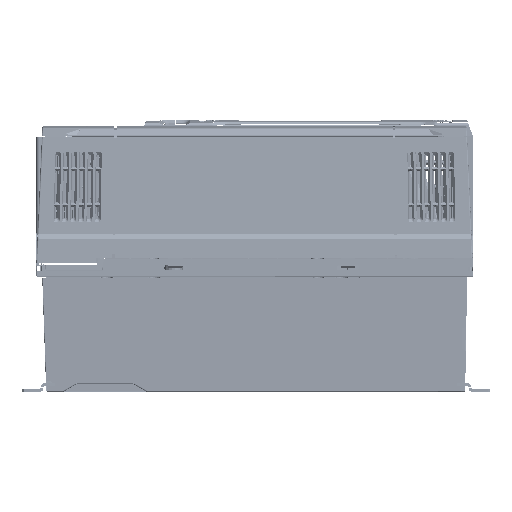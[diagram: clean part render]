
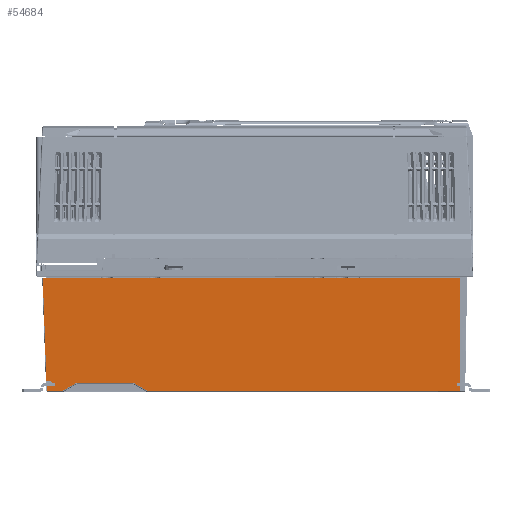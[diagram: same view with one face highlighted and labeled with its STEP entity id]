
A CAD part, left-side view. The second image highlights one B-rep face of the part: STEP entity #54684.
In plain terms, the highlighted planar face has unit normal (-1, 0, -0.026).
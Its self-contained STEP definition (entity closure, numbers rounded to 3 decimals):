
#12900=DIRECTION('',(0.,-1.,0.));
#12901=VECTOR('',#12900,348.629);
#12902=CARTESIAN_POINT('',(-165.17,176.879,
-2.787));
#12903=LINE('',#12902,#12901);
#12904=DIRECTION('',(-0.026,0.,1.));
#12905=VECTOR('',#12904,94.545);
#12906=CARTESIAN_POINT('',(-162.696,-171.75,-97.299));
#12907=LINE('',#12906,#12905);
#12908=DIRECTION('',(0.,1.,0.));
#12909=VECTOR('',#12908,261.482);
#12910=CARTESIAN_POINT('',(-162.696,-171.75,-97.299));
#12911=LINE('',#12910,#12909);
#12912=DIRECTION('',(-0.013,0.866,0.5));
#12913=VECTOR('',#12912,12.665);
#12914=CARTESIAN_POINT('',(-162.696,89.732,
-97.299));
#12915=LINE('',#12914,#12913);
#12916=CARTESIAN_POINT('',(-162.861,100.699,
-90.967));
#12917=CARTESIAN_POINT('',(-162.864,100.854,
-90.878));
#12918=CARTESIAN_POINT('',(-162.867,101.176,
-90.746));
#12919=CARTESIAN_POINT('',(-162.868,101.521,
-90.699));
#12920=CARTESIAN_POINT('',(-162.868,101.699,
-90.699));
#12922=DIRECTION('',(0.,1.,0.));
#12923=VECTOR('',#12922,46.601);
#12924=CARTESIAN_POINT('',(-162.868,101.699,
-90.699));
#12925=LINE('',#12924,#12923);
#12926=CARTESIAN_POINT('',(-162.868,148.301,
-90.699));
#12927=CARTESIAN_POINT('',(-162.868,148.479,
-90.699));
#12928=CARTESIAN_POINT('',(-162.867,148.824,
-90.746));
#12929=CARTESIAN_POINT('',(-162.864,149.146,
-90.878));
#12930=CARTESIAN_POINT('',(-162.861,149.301,
-90.967));
#12932=DIRECTION('',(0.013,0.866,-0.5));
#12933=VECTOR('',#12932,12.665);
#12934=CARTESIAN_POINT('',(-162.861,149.301,
-90.967));
#12935=LINE('',#12934,#12933);
#12936=DIRECTION('',(0.,1.,0.));
#12937=VECTOR('',#12936,13.311);
#12938=CARTESIAN_POINT('',(-162.696,160.268,
-97.299));
#12939=LINE('',#12938,#12937);
#12940=DIRECTION('',(-0.026,0.035,0.999));
#12941=VECTOR('',#12940,3.752);
#12942=CARTESIAN_POINT('',(-162.696,173.579,
-97.299));
#12943=LINE('',#12942,#12941);
#12944=DIRECTION('',(0.,-1.,0.017));
#12945=VECTOR('',#12944,3.228);
#12946=CARTESIAN_POINT('',(-162.794,173.71,
-93.551));
#12947=LINE('',#12946,#12945);
#12948=CARTESIAN_POINT('',(-162.795,170.483,
-93.494));
#12949=CARTESIAN_POINT('',(-162.795,170.44,
-93.494));
#12950=CARTESIAN_POINT('',(-162.795,170.351,
-93.487));
#12951=CARTESIAN_POINT('',(-162.796,170.207,
-93.455));
#12952=CARTESIAN_POINT('',(-162.798,170.057,
-93.396));
#12953=CARTESIAN_POINT('',(-162.8,169.903,
-93.305));
#12954=CARTESIAN_POINT('',(-162.804,169.752,
-93.17));
#12955=CARTESIAN_POINT('',(-162.808,169.617,
-92.985));
#12956=CARTESIAN_POINT('',(-162.815,169.523,
-92.752));
#12957=CARTESIAN_POINT('',(-162.819,169.5,
-92.584));
#12958=CARTESIAN_POINT('',(-162.821,169.5,-92.495));
#12960=DIRECTION('',(-0.026,0.,1.));
#12961=VECTOR('',#12960,2.018);
#12962=CARTESIAN_POINT('',(-162.821,169.5,-92.495));
#12963=LINE('',#12962,#12961);
#12964=CARTESIAN_POINT('',(-162.874,169.5,-90.477));
#12965=CARTESIAN_POINT('',(-162.875,169.5,
-90.434));
#12966=CARTESIAN_POINT('',(-162.878,169.506,
-90.344));
#12967=CARTESIAN_POINT('',(-162.881,169.535,
-90.199));
#12968=CARTESIAN_POINT('',(-162.885,169.592,
-90.047));
#12969=CARTESIAN_POINT('',(-162.89,169.683,
-89.89));
#12970=CARTESIAN_POINT('',(-162.894,169.817,
-89.736));
#12971=CARTESIAN_POINT('',(-162.897,170.001,
-89.599));
#12972=CARTESIAN_POINT('',(-162.9,170.23,
-89.504));
#12973=CARTESIAN_POINT('',(-162.9,170.395,
-89.479));
#12974=CARTESIAN_POINT('',(-162.9,170.483,
-89.477));
#12976=DIRECTION('',(0.,1.,0.017));
#12977=VECTOR('',#12976,3.372);
#12978=CARTESIAN_POINT('',(-162.9,170.483,
-89.477));
#12979=LINE('',#12978,#12977);
#12980=DIRECTION('',(-0.026,0.035,0.999));
#12981=VECTOR('',#12980,86.714);
#12982=CARTESIAN_POINT('',(-162.902,173.854,
-89.419));
#12983=LINE('',#12982,#12981);
#46662=CARTESIAN_POINT('',(-162.861,149.301,
-90.967));
#46663=CARTESIAN_POINT('',(-162.696,160.268,
-97.299));
#46664=VERTEX_POINT('',#46662);
#46665=VERTEX_POINT('',#46663);
#46666=VERTEX_POINT('',#12926);
#46671=CARTESIAN_POINT('',(-162.868,101.699,
-90.699));
#46672=VERTEX_POINT('',#46671);
#46673=VERTEX_POINT('',#12916);
#46678=CARTESIAN_POINT('',(-162.696,89.732,
-97.299));
#46679=VERTEX_POINT('',#46678);
#46684=CARTESIAN_POINT('',(-162.696,-171.75,-97.299));
#46685=VERTEX_POINT('',#46684);
#46704=CARTESIAN_POINT('',(-162.9,170.483,
-89.477));
#46705=CARTESIAN_POINT('',(-162.902,173.854,
-89.419));
#46706=VERTEX_POINT('',#46704);
#46707=VERTEX_POINT('',#46705);
#46708=VERTEX_POINT('',#12964);
#46709=CARTESIAN_POINT('',(-162.821,169.5,-92.495));
#46710=VERTEX_POINT('',#46709);
#46711=VERTEX_POINT('',#12948);
#46712=CARTESIAN_POINT('',(-162.794,173.71,
-93.551));
#46713=VERTEX_POINT('',#46712);
#46718=CARTESIAN_POINT('',(-162.696,173.579,
-97.299));
#46719=VERTEX_POINT('',#46718);
#46748=CARTESIAN_POINT('',(-165.17,-171.75,-2.787));
#46750=VERTEX_POINT('',#46748);
#46756=CARTESIAN_POINT('',(-165.17,176.879,
-2.787));
#46757=VERTEX_POINT('',#46756);
#54645=CARTESIAN_POINT('',(-162.67,-188.8,-98.273));
#54646=DIRECTION('',(-1.,0.,-0.026));
#54647=DIRECTION('',(0.,1.,0.));
#54648=AXIS2_PLACEMENT_3D('',#54645,#54646,#54647);
#54649=PLANE('',#54648);
#54651=ORIENTED_EDGE('',*,*,#54650,.T.);
#54653=ORIENTED_EDGE('',*,*,#54652,.F.);
#54655=ORIENTED_EDGE('',*,*,#54654,.T.);
#54657=ORIENTED_EDGE('',*,*,#54656,.T.);
#54659=ORIENTED_EDGE('',*,*,#54658,.T.);
#54661=ORIENTED_EDGE('',*,*,#54660,.T.);
#54663=ORIENTED_EDGE('',*,*,#54662,.T.);
#54665=ORIENTED_EDGE('',*,*,#54664,.T.);
#54667=ORIENTED_EDGE('',*,*,#54666,.T.);
#54669=ORIENTED_EDGE('',*,*,#54668,.T.);
#54671=ORIENTED_EDGE('',*,*,#54670,.T.);
#54673=ORIENTED_EDGE('',*,*,#54672,.T.);
#54675=ORIENTED_EDGE('',*,*,#54674,.T.);
#54677=ORIENTED_EDGE('',*,*,#54676,.T.);
#54679=ORIENTED_EDGE('',*,*,#54678,.T.);
#54681=ORIENTED_EDGE('',*,*,#54680,.T.);
#54682=EDGE_LOOP('',(#54651,#54653,#54655,#54657,#54659,#54661,#54663,#54665,
#54667,#54669,#54671,#54673,#54675,#54677,#54679,#54681));
#54683=FACE_OUTER_BOUND('',#54682,.F.);
#54684=ADVANCED_FACE('',(#54683),#54649,.T.);
#12921=B_SPLINE_CURVE_WITH_KNOTS('',3,(#12916,#12917,#12918,#12919,#12920),
.UNSPECIFIED.,.F.,.F.,(4,1,4),(0.,0.5,1.),.UNSPECIFIED.);
#12931=B_SPLINE_CURVE_WITH_KNOTS('',3,(#12926,#12927,#12928,#12929,#12930),
.UNSPECIFIED.,.F.,.F.,(4,1,4),(0.,0.5,1.),.UNSPECIFIED.);
#12959=B_SPLINE_CURVE_WITH_KNOTS('',3,(#12948,#12949,#12950,#12951,#12952,
#12953,#12954,#12955,#12956,#12957,#12958),.UNSPECIFIED.,.F.,.F.,(4,1,1,1,1,1,1,
1,4),(0.,0.125,0.25,0.375,0.5,0.625,0.75,0.875,1.),
.UNSPECIFIED.);
#12975=B_SPLINE_CURVE_WITH_KNOTS('',3,(#12964,#12965,#12966,#12967,#12968,
#12969,#12970,#12971,#12972,#12973,#12974),.UNSPECIFIED.,.F.,.F.,(4,1,1,1,1,1,1,
1,4),(0.,0.125,0.25,0.375,0.5,0.625,0.75,0.875,1.),
.UNSPECIFIED.);
#54650=EDGE_CURVE('',#46757,#46750,#12903,.T.);
#54652=EDGE_CURVE('',#46685,#46750,#12907,.T.);
#54654=EDGE_CURVE('',#46685,#46679,#12911,.T.);
#54656=EDGE_CURVE('',#46679,#46673,#12915,.T.);
#54658=EDGE_CURVE('',#46673,#46672,#12921,.T.);
#54660=EDGE_CURVE('',#46672,#46666,#12925,.T.);
#54662=EDGE_CURVE('',#46666,#46664,#12931,.T.);
#54664=EDGE_CURVE('',#46664,#46665,#12935,.T.);
#54666=EDGE_CURVE('',#46665,#46719,#12939,.T.);
#54668=EDGE_CURVE('',#46719,#46713,#12943,.T.);
#54670=EDGE_CURVE('',#46713,#46711,#12947,.T.);
#54672=EDGE_CURVE('',#46711,#46710,#12959,.T.);
#54674=EDGE_CURVE('',#46710,#46708,#12963,.T.);
#54676=EDGE_CURVE('',#46708,#46706,#12975,.T.);
#54678=EDGE_CURVE('',#46706,#46707,#12979,.T.);
#54680=EDGE_CURVE('',#46707,#46757,#12983,.T.);
